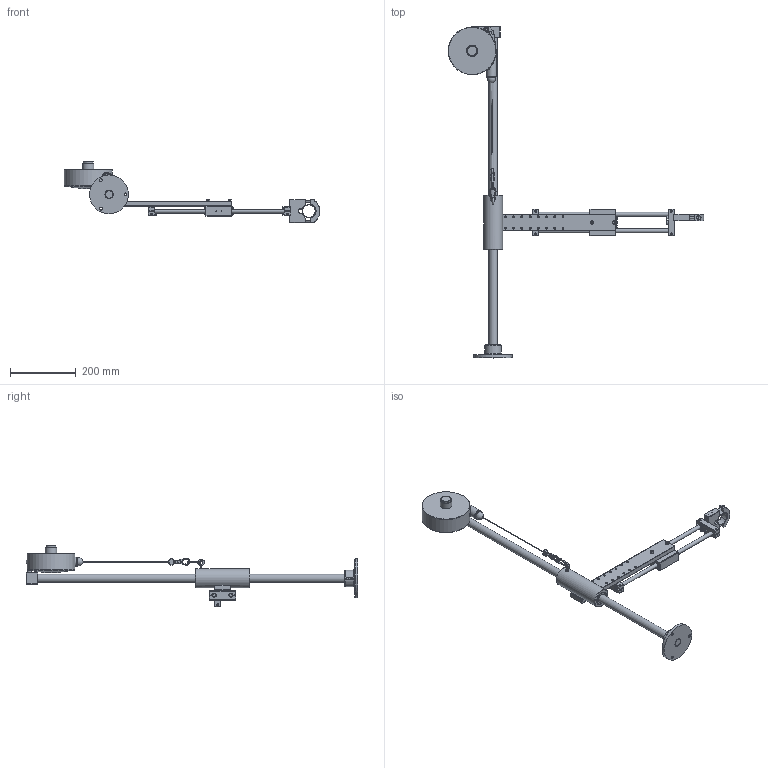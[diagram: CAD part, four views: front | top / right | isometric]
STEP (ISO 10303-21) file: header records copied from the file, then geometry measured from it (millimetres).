
FILE_DESCRIPTION( ( 'Unknown' ), '1' );
FILE_NAME( 'D:/dogabe/Industrie/Industrie 2003/03-09-2476 BA40/4-1200067_bras BA 40_3D/4-1200067_bras BA 40.stp', 'Unknown', ( 'Unknown' ), ( 'Unknown' ), 'PSStep 14.0', 'Unknown', ' ' );
FILE_SCHEMA( ( 'AUTOMOTIVE_DESIGN { 1 0 10303 214 1 1 1 1 }' ) );
Length unit declared in the file: millimetre
Products named in the file (61): Asm Equilibreur; Bague; Vis HC M4x8 à téton; CHC M8x50; Support equilibreur; Entretoise; Entretoise-oa6; Equilibreur 4-6 Kg; Asm mat BA40; Vis HC M8x12 à bout plat; Axe verticale; Bras  BA40 Standard; Asm Coulisse BA40; CHC M5x20; CHC M5x20-oa0; CHC M5x20-oa1; CHC M5x20-oa2; CHC M6x25; CHC M6x25-oa3; Vis HC M3x8; Bride arrière BA40; axe Ø12 BA40; axe Ø12 BA40-oa4; Butoir; Aimant NE110; Bride avant BA40; Asm pince BA40; CHC M6x45 fileté sous tete; CHC M6x45 fileté sous tete-oa5; Placement pince BA40; Collier BA40; Pince spécial BA40; Asm arrière bras BA40; Fourreau BA40; Piton M6; Plaque support BA40; Douille KB12; Douille KB12-oa7; Douille KB12-oa8; Douille KB12-oa9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
Assembly tree (60 placements, depth 3):
  Assem1
    Cable BA40
    Asm mat BA40
      Vis HC M8x12 à bout plat
      Axe verticale
      Bras  BA40 Standard
    Asm Coulisse BA40
      CHC M5x20
      CHC M5x20-oa0
      CHC M5x20-oa1
      CHC M5x20-oa2
      CHC M6x25
      CHC M6x25-oa3
      Vis HC M3x8
      Bride arrière BA40
      axe Ø12 BA40
      axe Ø12 BA40-oa4
      Butoir
      Aimant NE110
      Bride avant BA40
    Asm pince BA40
      CHC M6x45 fileté sous tete
      CHC M6x45 fileté sous tete-oa5
      Placement pince BA40
      Collier BA40
      Pince spécial BA40
    Asm Equilibreur
      Bague
      Vis HC M4x8 à téton
      CHC M8x50
      Support equilibreur
      Entretoise
      Entretoise-oa6
      Equilibreur 4-6 Kg
    Asm arrière bras BA40
      Fourreau BA40
      Piton M6
      Plaque support BA40
      Douille KB12
      Douille KB12-oa7
      Douille KB12-oa8
      Douille KB12-oa9
      Boîte à douille BA40
      FHC M6x25
      FHC M6x25-oa10
      FHC M6x25-oa11
      FHC M6x25-oa12
      CHC M6x25-oa13
      CHC M6x25-oa14
      Vis H M5x10 à collerette
      Vis H M5x10 à collerette-oa15
      Vis H M5x10 à collerette-oa16
      Vis H M5x10 à collerette-oa17
      Douille KB25
      Douille KB25-oa18
      05 Z
      CHC M5x10
      Anneau élastique pour moyeu 22
      Anneau élastique pour moyeu 22-oa19
      Anneau élastique pour moyeu 22-oa20
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Bounding box: 776.48 x 1008.78 x 186.5 mm (x, y, z)
Volume: 2686801.5 mm3; surface area: 486807.6 mm2
Topology: 55 solids, 55 shells, 1034 faces, 2338 edges, 1485 vertices
Faces by surface type: plane 593, cylinder 276, cone 121, torus 33, sphere 8, bspline 3
Full cylindrical faces by diameter (mm): 2 x9, 2.5 x4, 3 x1, 3.3 x1, 4 x1, 4.2 x9, 4.5 x1, 4.8 x5, 4.917 x2, 5 x22, 5.5 x4, 5.8 x10, 6 x35, 6.5 x2, 6.8 x3, 7 x2, 7.8 x1, 8 x2, 8.5 x10, 9 x6, 10 x8, 10.1 x1, 11.7 x4, 12 x6, 13 x3, 22 x10, 23 x4, 25 x5, 26 x1, 28 x2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
Entity records: 36898 total; most frequent: CARTESIAN_POINT 6312, DIRECTION 4652, ORIENTED_EDGE 3640, EDGE_CURVE 1820, AXIS2_PLACEMENT_3D 1780, EDGE_LOOP 1592, VERTEX_POINT 1321, FACE_OUTER_BOUND 1239
